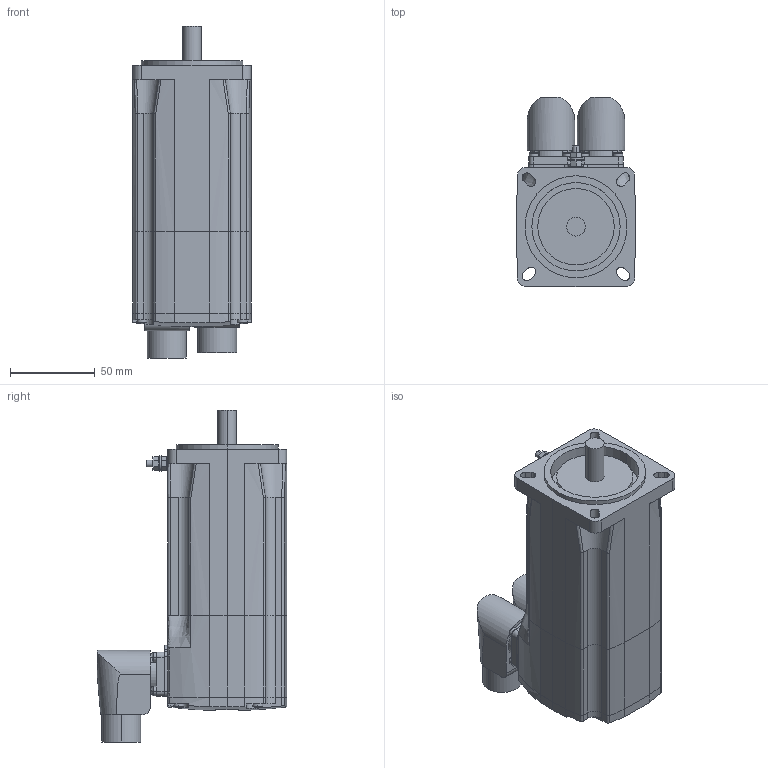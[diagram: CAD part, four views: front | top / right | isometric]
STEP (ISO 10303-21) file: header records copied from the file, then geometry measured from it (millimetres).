
FILE_DESCRIPTION (( 'STEP AP214' ), '1' );
FILE_NAME ('SH30701x0xA2100.STEP', '2013-11-29T07:52:34', ( 'Windows User' ), ( 'Schneider-Electric' ), 'SwSTEP 2.0', 'SolidWorks 2010', '' );
FILE_SCHEMA (( 'AUTOMOTIVE_DESIGN' ));
Length unit declared in the file: millimetre
Products named in the file (7): 1-100011014_K-TOPFGEHÄUSE SH3-BSH-070X_000_Topfgehäuse SH3-BSH-0701 ohne Passfeder; 1-100011011_K-ERDUNGSBOLZEN M4_000; 1-100010970_K-DECKEL MH3-070X_000_Deckel SH3-070x; 1-100008384_LAGERSCHILD SH3-070X-A_VM0_Lagerschild SH3-070x-A; K-POWER-CONINVERS-ABGEWIN_POWER-CONINVERS-ABGEWINKELT_000_ohne Bremse; K-ENCODER-CONINVERS-ABGEW_ENCODER-CONINVERS-ABGEWINKELT_000_Single- MultiTurn; SH30701x0xA2100
Assembly tree (6 placements, depth 2):
  SH30701x0xA2100
    K-ENCODER-CONINVERS-ABGEW_ENCODER-CONINVERS-ABGEWINKELT_000_Single- MultiTurn
    K-POWER-CONINVERS-ABGEWIN_POWER-CONINVERS-ABGEWINKELT_000_ohne Bremse
    1-100010970_K-DECKEL MH3-070X_000_Deckel SH3-070x
    1-100008384_LAGERSCHILD SH3-070X-A_VM0_Lagerschild SH3-070x-A
    1-100011014_K-TOPFGEHÄUSE SH3-BSH-070X_000_Topfgehäuse SH3-BSH-0701 ohne Passfeder
    1-100011011_K-ERDUNGSBOLZEN M4_000
Bounding box: 70 x 111.4 x 195.45 mm (x, y, z)
Volume: 731206.8 mm3; surface area: 87946 mm2
Topology: 6 solids, 6 shells, 424 faces, 1088 edges, 720 vertices
Faces by surface type: cylinder 197, plane 171, bspline 33, torus 16, cone 5, sphere 2
Entity records: 15252 total; most frequent: CARTESIAN_POINT 4631, ORIENTED_EDGE 2176, DIRECTION 2161, EDGE_CURVE 1088, AXIS2_PLACEMENT_3D 832, VERTEX_POINT 720, VECTOR 497, LINE 497
